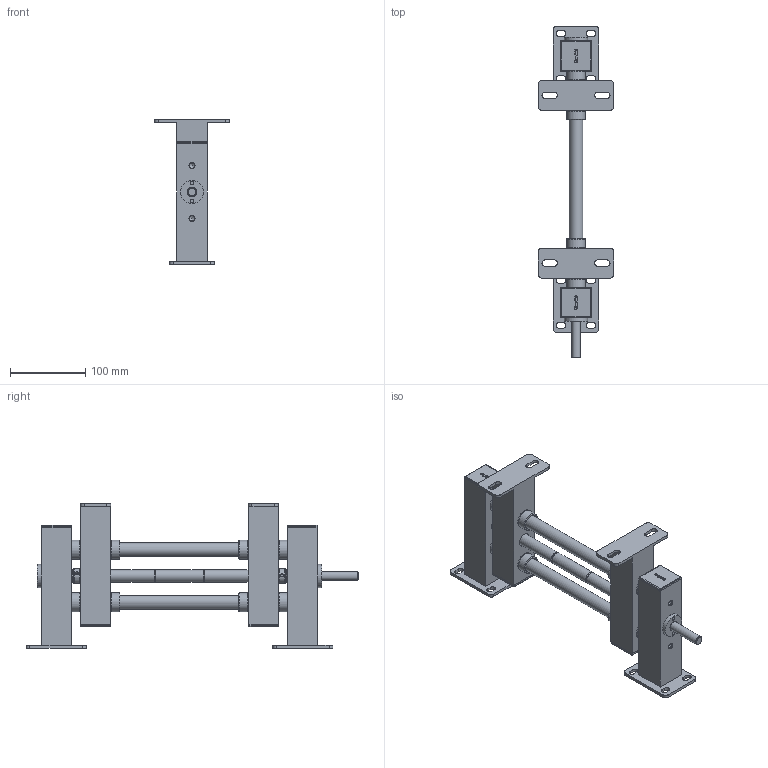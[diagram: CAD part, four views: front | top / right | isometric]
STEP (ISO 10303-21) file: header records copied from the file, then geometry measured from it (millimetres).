
FILE_DESCRIPTION((''),'2;1');
FILE_NAME('C:\Vault Klient\Projekt\Step\100-1400_0-100mm.stp','2009-12-11T13:00:14',('Mathias'),(''),'Autodesk Inventor 2010','Autodesk Inventor 2010','');
FILE_SCHEMA(('CONFIG_CONTROL_DESIGN'));
Length unit declared in the file: millimetre
Products named in the file (1): 100-1400_0-100mm
Bounding box: 100 x 441.5 x 192 mm (x, y, z)
Volume: 584799.2 mm3; surface area: 331439.8 mm2
Topology: 1 solids, 1 shells, 913 faces, 2286 edges, 1491 vertices
Faces by surface type: plane 470, bspline 258, cylinder 143, cone 26, sphere 16
Full cylindrical faces by diameter (mm): 5.1 x16, 12 x4, 12.3 x2, 16 x3, 18 x10, 19 x4, 20 x10, 23.9 x8, 25 x12, 31 x2
Entity records: 29230 total; most frequent: CARTESIAN_POINT 8774, ORIENTED_EDGE 4226, DIRECTION 3318, EDGE_CURVE 2113, VERTEX_POINT 1457, VECTOR 1280, LINE 1280, EDGE_LOOP 1232
